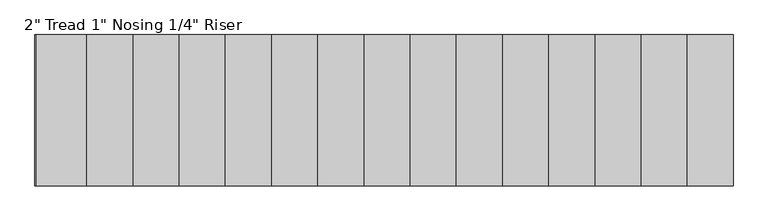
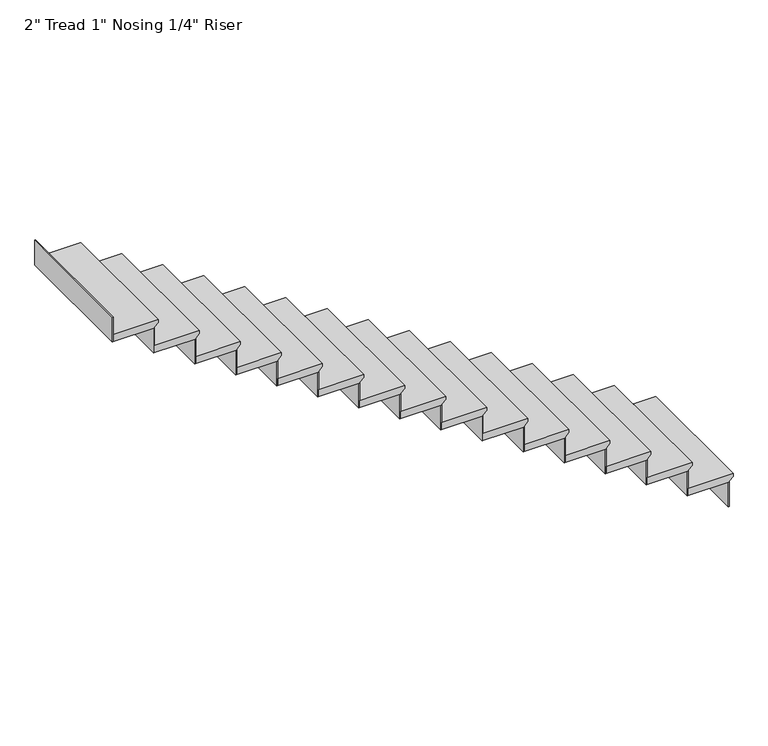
"""IFC4 building model written with IfcOpenShell, lengths in millimetres: stair flight geometry."""

from ifc_helpers import new_model, si_unit, frame, origin, place, context, project, spatial, polyline, outline, extrude, source, transform, mapped, element, save


def stair_flight_26c96a99(model_context):
    return source(origin(), model_context, "Body", "SweptSolid", [
        extrude(outline(polyline([(2831.6903226, 19106.112245), (2831.6903226, 18801.312245), (2780.8903226, 18801.312245), (2780.8903226, 19080.712245), (2787.2403226, 19080.712245), (2812.6403226, 19106.112245), (2831.6903226, 19106.112245)])), frame((0.0, 6268.8862109, 0.0), z_axis=(0.0, 1.0, 0.0), x_axis=(0.0, 0.0, 1.0)), (0.0, 0.0, 1.0), 914.4),
        extrude(outline(polyline([(19074.362245, 7183.2862109), (19080.712245, 7183.2862109), (19080.712245, 6268.8862109), (19074.362245, 6268.8862109), (19074.362245, 7183.2862109)])), frame((0.0, 0.0, 2603.9096774), z_axis=(0.0, 0.0, 1.0), x_axis=(1.0, 0.0, 0.0)), (0.0, 0.0, 1.0), 176.9806452),
        extrude(outline(polyline([(18794.962245, 7183.2862109), (18801.312245, 7183.2862109), (18801.312245, 6268.8862109), (18794.962245, 6268.8862109), (18794.962245, 7183.2862109)])), frame((0.0, 0.0, 2780.8903226), z_axis=(0.0, 0.0, 1.0), x_axis=(1.0, 0.0, 0.0)), (0.0, 0.0, 1.0), 176.9806452),
        extrude(outline(polyline([(3008.6709677, 18826.712245), (3008.6709677, 18521.912245), (2957.8709677, 18521.912245), (2957.8709677, 18801.312245), (2964.2209677, 18801.312245), (2989.6209677, 18826.712245), (3008.6709677, 18826.712245)])), frame((0.0, 6268.8862109, 0.0), z_axis=(0.0, 1.0, 0.0), x_axis=(0.0, 0.0, 1.0)), (0.0, 0.0, 1.0), 914.4),
        extrude(outline(polyline([(18515.562245, 7183.2862109), (18521.912245, 7183.2862109), (18521.912245, 6268.8862109), (18515.562245, 6268.8862109), (18515.562245, 7183.2862109)])), frame((0.0, 0.0, 2957.8709677), z_axis=(0.0, 0.0, 1.0), x_axis=(1.0, 0.0, 0.0)), (0.0, 0.0, 1.0), 176.9806452),
        extrude(outline(polyline([(3185.6516129, 18547.312245), (3185.6516129, 18242.512245), (3134.8516129, 18242.512245), (3134.8516129, 18521.912245), (3141.2016129, 18521.912245), (3166.6016129, 18547.312245), (3185.6516129, 18547.312245)])), frame((0.0, 6268.8862109, 0.0), z_axis=(0.0, 1.0, 0.0), x_axis=(0.0, 0.0, 1.0)), (0.0, 0.0, 1.0), 914.4),
        extrude(outline(polyline([(18236.162245, 7183.2862109), (18242.512245, 7183.2862109), (18242.512245, 6268.8862109), (18236.162245, 6268.8862109), (18236.162245, 7183.2862109)])), frame((0.0, 0.0, 3134.8516129), z_axis=(0.0, 0.0, 1.0), x_axis=(1.0, 0.0, 0.0)), (0.0, 0.0, 1.0), 176.9806452),
        extrude(outline(polyline([(3362.6322581, 18267.912245), (3362.6322581, 17963.112245), (3311.8322581, 17963.112245), (3311.8322581, 18242.512245), (3318.1822581, 18242.512245), (3343.5822581, 18267.912245), (3362.6322581, 18267.912245)])), frame((0.0, 6268.8862109, 0.0), z_axis=(0.0, 1.0, 0.0), x_axis=(0.0, 0.0, 1.0)), (0.0, 0.0, 1.0), 914.4),
        extrude(outline(polyline([(17956.762245, 7183.2862109), (17963.112245, 7183.2862109), (17963.112245, 6268.8862109), (17956.762245, 6268.8862109), (17956.762245, 7183.2862109)])), frame((0.0, 0.0, 3311.8322581), z_axis=(0.0, 0.0, 1.0), x_axis=(1.0, 0.0, 0.0)), (0.0, 0.0, 1.0), 176.9806452),
        extrude(outline(polyline([(3539.6129032, 17988.512245), (3539.6129032, 17683.712245), (3488.8129032, 17683.712245), (3488.8129032, 17963.112245), (3495.1629032, 17963.112245), (3520.5629032, 17988.512245), (3539.6129032, 17988.512245)])), frame((0.0, 6268.8862109, 0.0), z_axis=(0.0, 1.0, 0.0), x_axis=(0.0, 0.0, 1.0)), (0.0, 0.0, 1.0), 914.4),
        extrude(outline(polyline([(17677.362245, 7183.2862109), (17683.712245, 7183.2862109), (17683.712245, 6268.8862109), (17677.362245, 6268.8862109), (17677.362245, 7183.2862109)])), frame((0.0, 0.0, 3488.8129032), z_axis=(0.0, 0.0, 1.0), x_axis=(1.0, 0.0, 0.0)), (0.0, 0.0, 1.0), 176.9806452),
        extrude(outline(polyline([(3716.5935484, 17709.112245), (3716.5935484, 17404.312245), (3665.7935484, 17404.312245), (3665.7935484, 17683.712245), (3672.1435484, 17683.712245), (3697.5435484, 17709.112245), (3716.5935484, 17709.112245)])), frame((0.0, 6268.8862109, 0.0), z_axis=(0.0, 1.0, 0.0), x_axis=(0.0, 0.0, 1.0)), (0.0, 0.0, 1.0), 914.4),
        extrude(outline(polyline([(17397.962245, 7183.2862109), (17404.312245, 7183.2862109), (17404.312245, 6268.8862109), (17397.962245, 6268.8862109), (17397.962245, 7183.2862109)])), frame((0.0, 0.0, 3665.7935484), z_axis=(0.0, 0.0, 1.0), x_axis=(1.0, 0.0, 0.0)), (0.0, 0.0, 1.0), 176.9806452),
        extrude(outline(polyline([(3893.5741935, 17429.712245), (3893.5741935, 17124.912245), (3842.7741935, 17124.912245), (3842.7741935, 17404.312245), (3849.1241935, 17404.312245), (3874.5241935, 17429.712245), (3893.5741935, 17429.712245)])), frame((0.0, 6268.8862109, 0.0), z_axis=(0.0, 1.0, 0.0), x_axis=(0.0, 0.0, 1.0)), (0.0, 0.0, 1.0), 914.4),
        extrude(outline(polyline([(17118.562245, 7183.2862109), (17124.912245, 7183.2862109), (17124.912245, 6268.8862109), (17118.562245, 6268.8862109), (17118.562245, 7183.2862109)])), frame((0.0, 0.0, 3842.7741935), z_axis=(0.0, 0.0, 1.0), x_axis=(1.0, 0.0, 0.0)), (0.0, 0.0, 1.0), 176.9806452),
        extrude(outline(polyline([(4070.5548387, 17150.312245), (4070.5548387, 16845.512245), (4019.7548387, 16845.512245), (4019.7548387, 17124.912245), (4026.1048387, 17124.912245), (4051.5048387, 17150.312245), (4070.5548387, 17150.312245)])), frame((0.0, 6268.8862109, 0.0), z_axis=(0.0, 1.0, 0.0), x_axis=(0.0, 0.0, 1.0)), (0.0, 0.0, 1.0), 914.4),
        extrude(outline(polyline([(16839.162245, 7183.2862109), (16845.512245, 7183.2862109), (16845.512245, 6268.8862109), (16839.162245, 6268.8862109), (16839.162245, 7183.2862109)])), frame((0.0, 0.0, 4019.7548387), z_axis=(0.0, 0.0, 1.0), x_axis=(1.0, 0.0, 0.0)), (0.0, 0.0, 1.0), 176.9806452),
        extrude(outline(polyline([(4247.5354839, 16870.912245), (4247.5354839, 16566.112245), (4196.7354839, 16566.112245), (4196.7354839, 16845.512245), (4203.0854839, 16845.512245), (4228.4854839, 16870.912245), (4247.5354839, 16870.912245)])), frame((0.0, 6268.8862109, 0.0), z_axis=(0.0, 1.0, 0.0), x_axis=(0.0, 0.0, 1.0)), (0.0, 0.0, 1.0), 914.4),
        extrude(outline(polyline([(16559.762245, 7183.2862109), (16566.112245, 7183.2862109), (16566.112245, 6268.8862109), (16559.762245, 6268.8862109), (16559.762245, 7183.2862109)])), frame((0.0, 0.0, 4196.7354839), z_axis=(0.0, 0.0, 1.0), x_axis=(1.0, 0.0, 0.0)), (0.0, 0.0, 1.0), 176.9806452),
        extrude(outline(polyline([(4424.516129, 16591.512245), (4424.516129, 16286.712245), (4373.716129, 16286.712245), (4373.716129, 16566.112245), (4380.066129, 16566.112245), (4405.466129, 16591.512245), (4424.516129, 16591.512245)])), frame((0.0, 6268.8862109, 0.0), z_axis=(0.0, 1.0, 0.0), x_axis=(0.0, 0.0, 1.0)), (0.0, 0.0, 1.0), 914.4),
        extrude(outline(polyline([(16280.362245, 7183.2862109), (16286.712245, 7183.2862109), (16286.712245, 6268.8862109), (16280.362245, 6268.8862109), (16280.362245, 7183.2862109)])), frame((0.0, 0.0, 4373.716129), z_axis=(0.0, 0.0, 1.0), x_axis=(1.0, 0.0, 0.0)), (0.0, 0.0, 1.0), 176.9806452),
        extrude(outline(polyline([(4601.4967742, 16312.112245), (4601.4967742, 16007.312245), (4550.6967742, 16007.312245), (4550.6967742, 16286.712245), (4557.0467742, 16286.712245), (4582.4467742, 16312.112245), (4601.4967742, 16312.112245)])), frame((0.0, 6268.8862109, 0.0), z_axis=(0.0, 1.0, 0.0), x_axis=(0.0, 0.0, 1.0)), (0.0, 0.0, 1.0), 914.4),
        extrude(outline(polyline([(16000.962245, 7183.2862109), (16007.312245, 7183.2862109), (16007.312245, 6268.8862109), (16000.962245, 6268.8862109), (16000.962245, 7183.2862109)])), frame((0.0, 0.0, 4550.6967742), z_axis=(0.0, 0.0, 1.0), x_axis=(1.0, 0.0, 0.0)), (0.0, 0.0, 1.0), 176.9806452),
        extrude(outline(polyline([(4778.4774194, 16032.712245), (4778.4774194, 15727.912245), (4727.6774194, 15727.912245), (4727.6774194, 16007.312245), (4734.0274194, 16007.312245), (4759.4274194, 16032.712245), (4778.4774194, 16032.712245)])), frame((0.0, 6268.8862109, 0.0), z_axis=(0.0, 1.0, 0.0), x_axis=(0.0, 0.0, 1.0)), (0.0, 0.0, 1.0), 914.4),
        extrude(outline(polyline([(15721.562245, 7183.2862109), (15727.912245, 7183.2862109), (15727.912245, 6268.8862109), (15721.562245, 6268.8862109), (15721.562245, 7183.2862109)])), frame((0.0, 0.0, 4727.6774194), z_axis=(0.0, 0.0, 1.0), x_axis=(1.0, 0.0, 0.0)), (0.0, 0.0, 1.0), 176.9806452),
        extrude(outline(polyline([(4955.4580645, 15753.312245), (4955.4580645, 15448.512245), (4904.6580645, 15448.512245), (4904.6580645, 15727.912245), (4911.0080645, 15727.912245), (4936.4080645, 15753.312245), (4955.4580645, 15753.312245)])), frame((0.0, 6268.8862109, 0.0), z_axis=(0.0, 1.0, 0.0), x_axis=(0.0, 0.0, 1.0)), (0.0, 0.0, 1.0), 914.4),
        extrude(outline(polyline([(15442.162245, 7183.2862109), (15448.512245, 7183.2862109), (15448.512245, 6268.8862109), (15442.162245, 6268.8862109), (15442.162245, 7183.2862109)])), frame((0.0, 0.0, 4904.6580645), z_axis=(0.0, 0.0, 1.0), x_axis=(1.0, 0.0, 0.0)), (0.0, 0.0, 1.0), 176.9806452),
        extrude(outline(polyline([(5132.4387097, 15473.912245), (5132.4387097, 15169.112245), (5081.6387097, 15169.112245), (5081.6387097, 15448.512245), (5087.9887097, 15448.512245), (5113.3887097, 15473.912245), (5132.4387097, 15473.912245)])), frame((0.0, 6268.8862109, 0.0), z_axis=(0.0, 1.0, 0.0), x_axis=(0.0, 0.0, 1.0)), (0.0, 0.0, 1.0), 914.4),
        extrude(outline(polyline([(15162.762245, 7183.2862109), (15169.112245, 7183.2862109), (15169.112245, 6268.8862109), (15162.762245, 6268.8862109), (15162.762245, 7183.2862109)])), frame((0.0, 0.0, 5081.6387097), z_axis=(0.0, 0.0, 1.0), x_axis=(1.0, 0.0, 0.0)), (0.0, 0.0, 1.0), 176.9806452),
        extrude(outline(polyline([(14883.362245, 7183.2862109), (14889.712245, 7183.2862109), (14889.712245, 6268.8862109), (14883.362245, 6268.8862109), (14883.362245, 7183.2862109)])), frame((0.0, 0.0, 5258.6193548), z_axis=(0.0, 0.0, 1.0), x_axis=(1.0, 0.0, 0.0)), (0.0, 0.0, 1.0), 176.9806452),
        extrude(outline(polyline([(5309.4193548, 15194.512245), (5309.4193548, 14889.712245), (5258.6193548, 14889.712245), (5258.6193548, 15169.112245), (5264.9693548, 15169.112245), (5290.3693548, 15194.512245), (5309.4193548, 15194.512245)])), frame((0.0, 6268.8862109, 0.0), z_axis=(0.0, 1.0, 0.0), x_axis=(0.0, 0.0, 1.0)), (0.0, 0.0, 1.0), 914.4),
    ])


if __name__ == "__main__":
    model = new_model("IFC4")
    model_context = context("Model", 3, world=origin())
    ifc_project = project(units=[si_unit("LENGTHUNIT", "METRE", prefix="MILLI")], contexts=[model_context])
    site = spatial("IfcSite", under=ifc_project)
    building = spatial("IfcBuilding", under=site)
    placement = place(None, origin())
    stair_flight_shape = stair_flight_26c96a99(model_context)
    element("IfcStairFlight", 1, ObjectType="2\" Tread 1\" Nosing 1/4\" Riser", at=placement, inside=building, context=model_context, shape_type="MappedRepresentation", body=[
        mapped(stair_flight_shape, transform((0.0, 0.0, 0.0), x_axis=(1.0, 0.0, 0.0), y_axis=(0.0, 1.0, 0.0), z_axis=(0.0, 0.0, 1.0))),
    ])
    save(model, "model.ifc")
